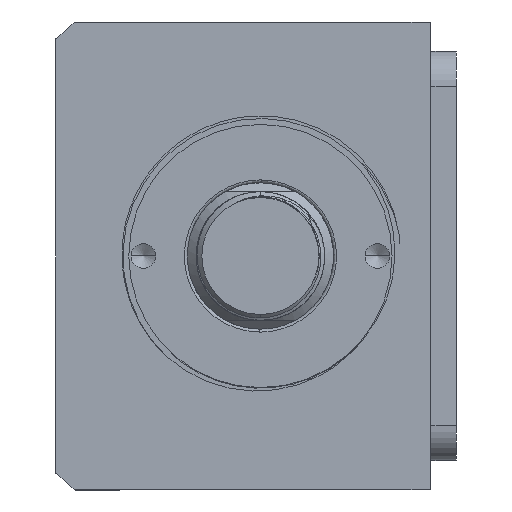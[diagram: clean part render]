
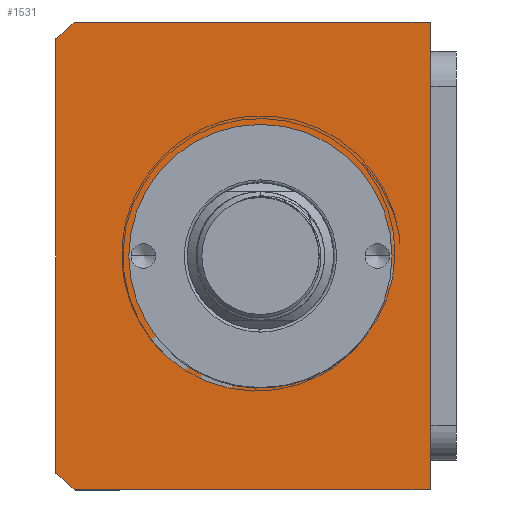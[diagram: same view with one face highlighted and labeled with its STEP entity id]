
A CAD part, front view. The second image highlights one B-rep face of the part: STEP entity #1531.
In plain terms, the highlighted planar face has unit normal (0, -1, 0) as drawn and (0, 0, 1) by its records, which use the part's own axes.
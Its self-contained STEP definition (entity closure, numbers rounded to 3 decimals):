
#302 = AXIS2_PLACEMENT_3D ( 'NONE', #6204, #13606, #7264 ) ;
#315 = VECTOR ( 'NONE', #8564, 1000. ) ;
#499 = CARTESIAN_POINT ( 'NONE',  ( -40., -72.145, 90. ) ) ;
#512 = VERTEX_POINT ( 'NONE', #4577 ) ;
#713 = EDGE_CURVE ( 'NONE', #512, #4601, #2381, .T. ) ;
#1059 = CARTESIAN_POINT ( 'NONE',  ( 0., 0., 90. ) ) ;
#1531 = ADVANCED_FACE ( 'NONE', ( #7798, #10608 ), #5403, .T. ) ;
#1543 = CIRCLE ( 'NONE', #3852, 22.5 ) ;
#1547 = DIRECTION ( 'NONE',  ( 0., 0., 1. ) ) ;
#1607 = ORIENTED_EDGE ( 'NONE', *, *, #2409, .T. ) ;
#2381 = LINE ( 'NONE', #10965, #13326 ) ;
#2409 = EDGE_CURVE ( 'NONE', #10927, #12558, #5949, .T. ) ;
#2744 = AXIS2_PLACEMENT_3D ( 'NONE', #7890, #1547, #8976 ) ;
#3279 = DIRECTION ( 'NONE',  ( 0., 0., 1. ) ) ;
#3500 = VECTOR ( 'NONE', #6628, 1000. ) ;
#3790 = VERTEX_POINT ( 'NONE', #11145 ) ;
#3852 = AXIS2_PLACEMENT_3D ( 'NONE', #6322, #13741, #7390 ) ;
#4099 = EDGE_CURVE ( 'NONE', #12558, #3790, #12817, .T. ) ;
#4219 = DIRECTION ( 'NONE',  ( -1., 0., 0. ) ) ;
#4251 = ORIENTED_EDGE ( 'NONE', *, *, #10612, .F. ) ;
#4327 = VECTOR ( 'NONE', #4219, 1000. ) ;
#4577 = CARTESIAN_POINT ( 'NONE',  ( 40., -72.145, 90. ) ) ;
#4601 = VERTEX_POINT ( 'NONE', #13712 ) ;
#5177 = DIRECTION ( 'NONE',  ( 1., 0., 0. ) ) ;
#5261 = DIRECTION ( 'NONE',  ( 0., 0., 1. ) ) ;
#5403 = PLANE ( 'NONE',  #8533 ) ;
#5646 = EDGE_CURVE ( 'NONE', #11642, #512, #13618, .T. ) ;
#5949 = LINE ( 'NONE', #12815, #315 ) ;
#6108 = CARTESIAN_POINT ( 'NONE',  ( -22.5, -40.507, 90. ) ) ;
#6204 = CARTESIAN_POINT ( 'NONE',  ( 0., -40.507, 90. ) ) ;
#6322 = CARTESIAN_POINT ( 'NONE',  ( 0., -40.507, 90. ) ) ;
#6448 = CARTESIAN_POINT ( 'NONE',  ( -40., -11.507, 90. ) ) ;
#6568 = CARTESIAN_POINT ( 'NONE',  ( -40., -75.507, 90. ) ) ;
#6628 = DIRECTION ( 'NONE',  ( 1., 0., 0. ) ) ;
#6747 = EDGE_LOOP ( 'NONE', ( #1607, #10067, #11941, #8052, #8726, #9780 ) ) ;
#7264 = DIRECTION ( 'NONE',  ( 1., 0., 0. ) ) ;
#7390 = DIRECTION ( 'NONE',  ( 1., 0., 0. ) ) ;
#7798 = FACE_BOUND ( 'NONE', #8498, .T. ) ;
#7890 = CARTESIAN_POINT ( 'NONE',  ( 0., -40.507, 90. ) ) ;
#8052 = ORIENTED_EDGE ( 'NONE', *, *, #5646, .T. ) ;
#8498 = EDGE_LOOP ( 'NONE', ( #4251, #9006 ) ) ;
#8533 = AXIS2_PLACEMENT_3D ( 'NONE', #1059, #5261, #5177 ) ;
#8564 = DIRECTION ( 'NONE',  ( 0., -1., 0. ) ) ;
#8726 = ORIENTED_EDGE ( 'NONE', *, *, #713, .T. ) ;
#8976 = DIRECTION ( 'NONE',  ( 1., 0., 0. ) ) ;
#9006 = ORIENTED_EDGE ( 'NONE', *, *, #10814, .F. ) ;
#9170 = LINE ( 'NONE', #6568, #3500 ) ;
#9668 = CARTESIAN_POINT ( 'NONE',  ( 0., -40.507, 90. ) ) ;
#9780 = ORIENTED_EDGE ( 'NONE', *, *, #11573, .T. ) ;
#10067 = ORIENTED_EDGE ( 'NONE', *, *, #4099, .T. ) ;
#10330 = LINE ( 'NONE', #6448, #4327 ) ;
#10341 = CIRCLE ( 'NONE', #302, 22.5 ) ;
#10583 = CARTESIAN_POINT ( 'NONE',  ( 22.5, -40.507, 90. ) ) ;
#10608 = FACE_OUTER_BOUND ( 'NONE', #6747, .T. ) ;
#10612 = EDGE_CURVE ( 'NONE', #12927, #13012, #10341, .T. ) ;
#10713 = DIRECTION ( 'NONE',  ( 1., 0., 0. ) ) ;
#10814 = EDGE_CURVE ( 'NONE', #13012, #12927, #1543, .T. ) ;
#10927 = VERTEX_POINT ( 'NONE', #11712 ) ;
#10965 = CARTESIAN_POINT ( 'NONE',  ( 40., -11.507, 90. ) ) ;
#11048 = DIRECTION ( 'NONE',  ( 0., 1., 0. ) ) ;
#11145 = CARTESIAN_POINT ( 'NONE',  ( -37.094, -75.507, 90. ) ) ;
#11573 = EDGE_CURVE ( 'NONE', #4601, #10927, #10330, .T. ) ;
#11642 = VERTEX_POINT ( 'NONE', #11891 ) ;
#11712 = CARTESIAN_POINT ( 'NONE',  ( -40., -11.507, 90. ) ) ;
#11891 = CARTESIAN_POINT ( 'NONE',  ( 37.094, -75.507, 90. ) ) ;
#11941 = ORIENTED_EDGE ( 'NONE', *, *, #12320, .T. ) ;
#12067 = AXIS2_PLACEMENT_3D ( 'NONE', #9668, #3279, #10713 ) ;
#12320 = EDGE_CURVE ( 'NONE', #3790, #11642, #9170, .T. ) ;
#12558 = VERTEX_POINT ( 'NONE', #499 ) ;
#12815 = CARTESIAN_POINT ( 'NONE',  ( -40., -11.507, 90. ) ) ;
#12817 = CIRCLE ( 'NONE', #12067, 51. ) ;
#12927 = VERTEX_POINT ( 'NONE', #10583 ) ;
#13012 = VERTEX_POINT ( 'NONE', #6108 ) ;
#13326 = VECTOR ( 'NONE', #11048, 1000. ) ;
#13606 = DIRECTION ( 'NONE',  ( 0., 0., 1. ) ) ;
#13618 = CIRCLE ( 'NONE', #2744, 51. ) ;
#13712 = CARTESIAN_POINT ( 'NONE',  ( 40., -11.507, 90. ) ) ;
#13741 = DIRECTION ( 'NONE',  ( 0., 0., 1. ) ) ;
